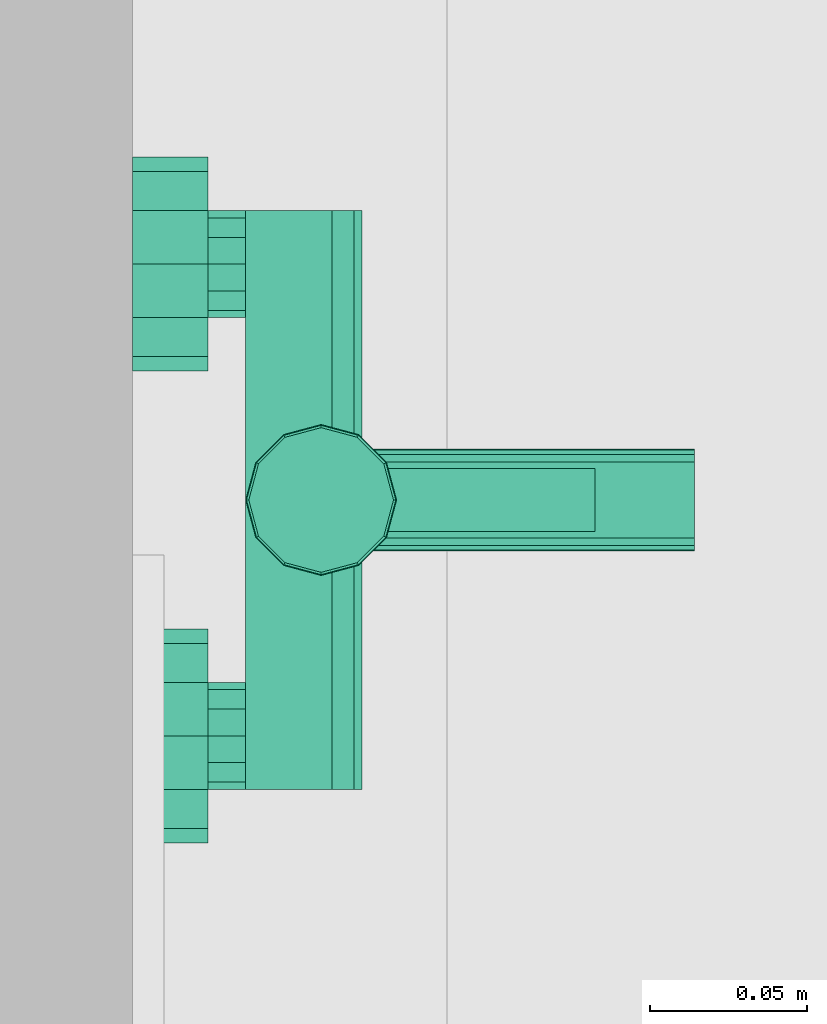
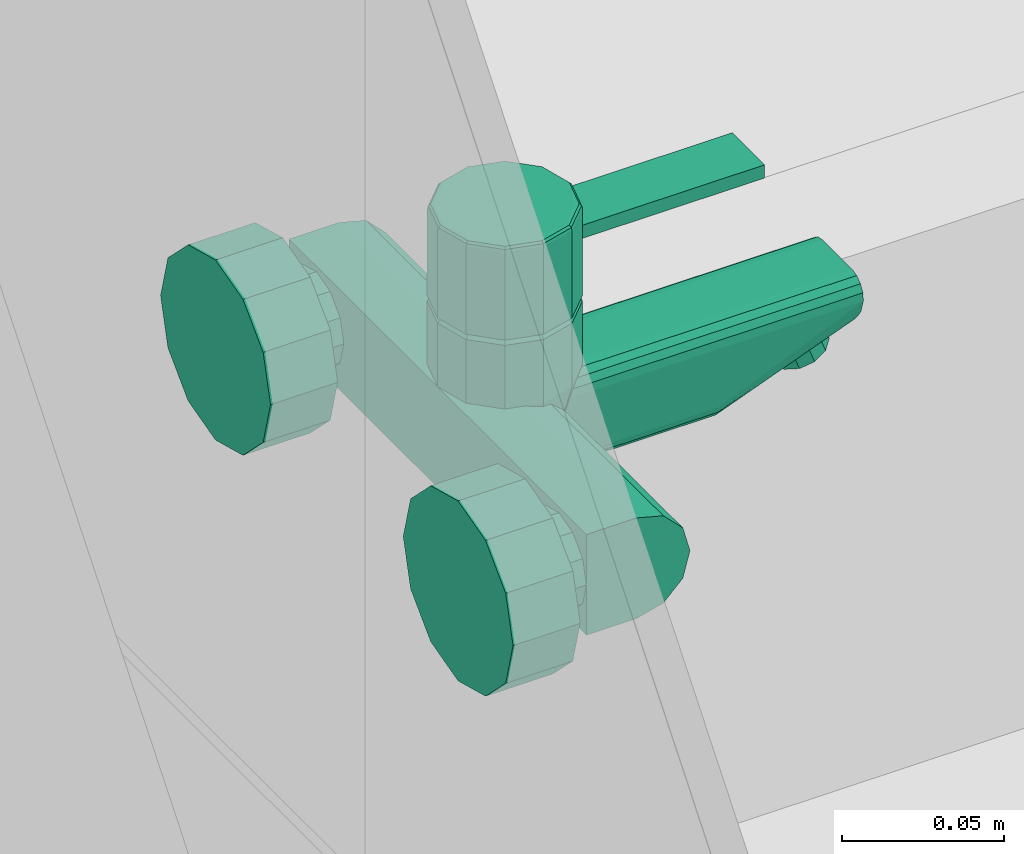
# One storey, part 269 of 301: 1 flow terminal.
"""IFC2X3 building model written with IfcOpenShell, lengths in millimetres."""

from ifc_helpers import new_model, entity, si_unit, converted_unit, derived_unit, money_unit, direction, frame, origin_with_axes, place, context, subcontext, project, spatial, faceted_brep, type_object, element, save


model = new_model("IFC2X3")

# Units and contexts
model_context = context("Model", 3, precision=0.01, world=origin_with_axes(), true_north=direction((0.0, 1.0)))
body_context = subcontext(model_context, "Body", "Model", "MODEL_VIEW")
ifc_project = project(units=[si_unit("LENGTHUNIT", "METRE", prefix="MILLI"), si_unit("AREAUNIT", "SQUARE_METRE"), si_unit("VOLUMEUNIT", "CUBIC_METRE"), converted_unit("PLANEANGLEUNIT", "DEGREE", entity("IfcPlaneAngleMeasure", 0.0174532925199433), si_unit("PLANEANGLEUNIT", "RADIAN"), dimensions=[0, 0, 0, 0, 0, 0, 0]), money_unit("EUR"), converted_unit("TIMEUNIT", "Year", entity("IfcTimeMeasure", 31557600.0), si_unit("TIMEUNIT", "SECOND"), dimensions=[0, 0, 1, 0, 0, 0, 0]), si_unit("MASSUNIT", "GRAM", prefix="KILO"), si_unit("THERMODYNAMICTEMPERATUREUNIT", "DEGREE_CELSIUS"), si_unit("LUMINOUSINTENSITYUNIT", "LUMEN"), si_unit("ENERGYUNIT", "JOULE", prefix="MEGA"), derived_unit("THERMALCONDUCTANCEUNIT", [(si_unit("POWERUNIT", "WATT"), 1), (si_unit("LENGTHUNIT", "METRE"), -1), (si_unit("THERMODYNAMICTEMPERATUREUNIT", "KELVIN"), -1)]), derived_unit("SPECIFICHEATCAPACITYUNIT", [(si_unit("ENERGYUNIT", "JOULE"), 1), (si_unit("MASSUNIT", "GRAM", prefix="KILO"), -1), (si_unit("THERMODYNAMICTEMPERATUREUNIT", "KELVIN"), -1)]), derived_unit("MASSDENSITYUNIT", [(si_unit("MASSUNIT", "GRAM", prefix="KILO"), 1), (si_unit("VOLUMEUNIT", "CUBIC_METRE"), -1)])], contexts=[model_context])

# Site, building, storey
site_placement = place(None, frame((0.0, 0.0, 8650.0), z_axis=(0.0, 0.0, 1.0), x_axis=(1.0, 0.0, 0.0)))
site = spatial("IfcSite", under=ifc_project, at=site_placement, Name="43301:001:0844", CompositionType="ELEMENT")
building_placement = place(site_placement, origin_with_axes())
building = spatial("IfcBuilding", under=site, at=building_placement, Name="Kuressaare Ametikooli tuulikute mehaanikute õppekorpus", CompositionType="ELEMENT")
storey_placement = place(building_placement, origin_with_axes())
storey = spatial("IfcBuildingStorey", under=building, at=storey_placement, Name="1.korrus", CompositionType="ELEMENT", Elevation=0.0)

# Flow terminal
sanitary_terminal_type = type_object("IfcSanitaryTerminalType", Name="Wall Mounted Tap 27", PredefinedType="NOTDEFINED")
flow_terminal_placement = place(storey_placement, frame((130614.9464826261, 21866.46984143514, 0.0), z_axis=(0.0, 0.0, 1.0), x_axis=(0.0, 1.0, 0.0)))
element("IfcFlowTerminal", 1, at=flow_terminal_placement, inside=storey, type_object=sanitary_terminal_type, Name="V", context=body_context, shape_type="Brep", body=[
    faceted_brep([(45.55513627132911, 0.0, 1033.0), (41.00000000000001, 0.0, 1050.0), (45.5551362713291, 0.0, 1067.0), (58.0, 0.0, 1079.444863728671), (75.0, 0.0, 1084.0), (92.0, 0.0, 1079.444863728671), (104.4448637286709, 0.0, 1067.0), (109.0, 0.0, 1050.0), (104.4448637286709, 0.0, 1033.0), (92.00000000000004, 0.0, 1020.555136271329), (75.00000000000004, 0.0, 1016.0), (58.00000000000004, 0.0, 1020.555136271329), (45.55513627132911, -24.0, 1033.0), (41.00000000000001, -24.0, 1050.0), (45.5551362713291, -24.0, 1067.0), (58.0, -24.0, 1079.444863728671), (75.0, -24.0, 1084.0), (92.0, -24.0, 1079.444863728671), (104.4448637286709, -24.0, 1067.0), (109.0, -24.0, 1050.0), (104.4448637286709, -24.0, 1033.0), (92.00000000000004, -24.0, 1020.555136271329), (75.00000000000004, -24.0, 1016.0), (58.00000000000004, -24.0, 1020.555136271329)], [[[0, 1, 2, 3, 4, 5, 6, 7, 8, 9, 10, 11]], [[0, 12, 13, 1]], [[1, 13, 14, 2]], [[2, 14, 15, 3]], [[3, 15, 16, 4]], [[4, 16, 17, 5]], [[5, 17, 18, 6]], [[6, 18, 19, 7]], [[7, 19, 20, 8]], [[8, 20, 21, 9]], [[9, 21, 22, 10]], [[10, 22, 23, 11]], [[11, 23, 12, 0]], [[12, 23, 22, 21, 20, 19, 18, 17, 16, 15, 14, 13]]]),
    faceted_brep([(60.27756813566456, -24.0, 1041.5), (58.00000000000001, -24.0, 1050.0), (60.27756813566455, -24.0, 1058.5), (66.5, -24.0, 1064.722431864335), (75.00000000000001, -24.0, 1067.0), (83.5, -24.0, 1064.722431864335), (89.72243186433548, -24.0, 1058.5), (92.00000000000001, -24.0, 1050.0), (89.72243186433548, -24.0, 1041.5), (83.50000000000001, -24.0, 1035.277568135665), (75.00000000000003, -24.0, 1033.0), (66.50000000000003, -24.0, 1035.277568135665), (60.27756813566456, -36.00000000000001, 1041.5), (58.00000000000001, -36.00000000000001, 1050.0), (60.27756813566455, -36.00000000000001, 1058.5), (66.5, -36.0, 1064.722431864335), (75.00000000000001, -36.0, 1067.0), (83.5, -36.0, 1064.722431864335), (89.72243186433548, -36.00000000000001, 1058.5), (92.00000000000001, -36.00000000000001, 1050.0), (89.72243186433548, -36.00000000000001, 1041.5), (83.50000000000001, -36.00000000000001, 1035.277568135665), (75.00000000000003, -36.00000000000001, 1033.0), (66.50000000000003, -36.00000000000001, 1035.277568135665)], [[[0, 1, 2, 3, 4, 5, 6, 7, 8, 9, 10, 11]], [[0, 12, 13, 1]], [[1, 13, 14, 2]], [[2, 14, 15, 3]], [[3, 15, 16, 4]], [[4, 16, 17, 5]], [[5, 17, 18, 6]], [[6, 18, 19, 7]], [[7, 19, 20, 8]], [[8, 20, 21, 9]], [[9, 21, 22, 10]], [[10, 22, 23, 11]], [[11, 23, 12, 0]], [[12, 23, 22, 21, 20, 19, 18, 17, 16, 15, 14, 13]]]),
    faceted_brep([(-45.55513627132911, 0.0, 1033.0), (-58.00000000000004, 0.0, 1020.555136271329), (-75.00000000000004, 0.0, 1016.0), (-92.00000000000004, 0.0, 1020.555136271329), (-104.4448637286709, 0.0, 1033.0), (-109.0, 0.0, 1050.0), (-104.4448637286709, 0.0, 1067.0), (-92.0, 0.0, 1079.444863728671), (-75.0, 0.0, 1084.0), (-58.0, 0.0, 1079.444863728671), (-45.5551362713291, 0.0, 1067.0), (-41.00000000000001, 0.0, 1050.0), (-45.55513627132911, -24.0, 1033.0), (-58.00000000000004, -24.0, 1020.555136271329), (-75.00000000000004, -24.0, 1016.0), (-92.00000000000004, -24.0, 1020.555136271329), (-104.4448637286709, -24.0, 1033.0), (-109.0, -24.0, 1050.0), (-104.4448637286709, -24.0, 1067.0), (-92.0, -24.0, 1079.444863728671), (-75.0, -24.0, 1084.0), (-58.0, -24.0, 1079.444863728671), (-45.5551362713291, -24.0, 1067.0), (-41.00000000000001, -24.0, 1050.0)], [[[0, 1, 2, 3, 4, 5, 6, 7, 8, 9, 10, 11]], [[1, 0, 12, 13]], [[2, 1, 13, 14]], [[3, 2, 14, 15]], [[4, 3, 15, 16]], [[5, 4, 16, 17]], [[6, 5, 17, 18]], [[7, 6, 18, 19]], [[8, 7, 19, 20]], [[9, 8, 20, 21]], [[10, 9, 21, 22]], [[11, 10, 22, 23]], [[0, 11, 23, 12]], [[12, 23, 22, 21, 20, 19, 18, 17, 16, 15, 14, 13]]]),
    faceted_brep([(-60.27756813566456, -24.0, 1041.5), (-66.50000000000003, -24.0, 1035.277568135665), (-75.00000000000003, -24.0, 1033.0), (-83.50000000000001, -24.0, 1035.277568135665), (-89.72243186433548, -24.0, 1041.5), (-92.00000000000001, -24.0, 1050.0), (-89.72243186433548, -24.0, 1058.5), (-83.5, -24.0, 1064.722431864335), (-75.00000000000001, -24.0, 1067.0), (-66.5, -24.0, 1064.722431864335), (-60.27756813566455, -24.0, 1058.5), (-58.00000000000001, -24.0, 1050.0), (-60.27756813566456, -36.00000000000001, 1041.5), (-66.50000000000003, -36.00000000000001, 1035.277568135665), (-75.00000000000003, -36.00000000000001, 1033.0), (-83.50000000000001, -36.00000000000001, 1035.277568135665), (-89.72243186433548, -36.00000000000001, 1041.5), (-92.00000000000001, -36.00000000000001, 1050.0), (-89.72243186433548, -36.00000000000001, 1058.5), (-83.5, -36.0, 1064.722431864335), (-75.00000000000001, -36.0, 1067.0), (-66.5, -36.0, 1064.722431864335), (-60.27756813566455, -36.00000000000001, 1058.5), (-58.00000000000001, -36.00000000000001, 1050.0)], [[[0, 1, 2, 3, 4, 5, 6, 7, 8, 9, 10, 11]], [[1, 0, 12, 13]], [[2, 1, 13, 14]], [[3, 2, 14, 15]], [[4, 3, 15, 16]], [[5, 4, 16, 17]], [[6, 5, 17, 18]], [[7, 6, 18, 19]], [[8, 7, 19, 20]], [[9, 8, 20, 21]], [[10, 9, 21, 22]], [[11, 10, 22, 23]], [[0, 11, 23, 12]], [[12, 23, 22, 21, 20, 19, 18, 17, 16, 15, 14, 13]]]),
    faceted_brep([(-22.39230484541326, -54.0, 1069.0), (-92.0, -54.0, 1069.0), (-92.0, -63.5, 1066.454482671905), (-22.3801085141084, -63.5, 1066.454482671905), (-23.56921938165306, -59.99999999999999, 1067.392304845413), (-20.78460969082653, -47.99999999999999, 1069.0), (-12.0, -39.21539030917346, 1069.0), (0.0, -36.00000000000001, 1069.0), (-92.0, -36.00000000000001, 1069.0), (-92.0, -36.00000000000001, 1031.0), (-92.0, -54.00000000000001, 1031.0), (-92.0, -63.5, 1033.545517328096), (-92.0, -70.45448267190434, 1040.5), (-92.0, -73.00000000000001, 1050.0), (-92.0, -70.45448267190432, 1059.5), (-18.65321248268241, -70.45448267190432, 1059.5), (-18.42264973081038, -70.63632178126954, 1058.821367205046), (-20.78460969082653, -72.0, 1069.0), (-24.0, -59.99999999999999, 1069.0), (-20.78460969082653, -47.99999999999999, 1093.0), (-12.0, -39.21539030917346, 1093.0), (0.0, -36.00000000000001, 1093.0), (92.0, -36.00000000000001, 1069.0), (92.0, -36.00000000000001, 1031.0), (-24.0, -59.99999999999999, 1093.0), (6.698167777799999, -54.00000000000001, 1031.0), (6.698167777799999, -128.7, 1031.0), (-6.698167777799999, -128.7, 1031.0), (-6.698167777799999, -54.00000000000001, 1031.0), (92.0, -54.00000000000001, 1031.0), (-9.206486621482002, -55.73480068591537, 1031.46483844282), (-11.38167317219, -60.70880215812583, 1032.79761812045), (-11.95567316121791, -63.5, 1033.545517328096), (-12.93483876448, -64.77581392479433, 1034.82133125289), (-13.65970594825, -67.22168918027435, 1037.26720650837), (-14.00000000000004, -70.45448267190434, 1040.5), (-14.99999999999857, -73.00000000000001, 1050.0), (-15.6314139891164, -71.39272474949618, 1055.998432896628), (-17.26794919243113, -71.12435565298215, 1057.0), (-15.73684210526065, -72.65546274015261, 1057.0), (-16.18602173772, -73.76818909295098, 1061.26720650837), (-15.88213414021, -75.13176694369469, 1064.16233412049), (-14.42686544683, -77.50984837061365, 1066.68350539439), (-12.07189135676, -80.49116546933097, 1068.39470631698), (-11.92314238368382, -80.65148839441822, 1068.426326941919), (-12.00000000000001, -80.78460969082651, 1069.0), (-20.78460969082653, -72.0, 1093.0), (-19.05255888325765, -48.99999999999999, 1095.0), (-11.0, -40.94744111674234, 1095.0), (0.0, -38.00000000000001, 1095.0), (12.00000000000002, -39.21539030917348, 1093.0), (12.00000000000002, -39.21539030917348, 1069.0), (20.78460969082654, -48.00000000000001, 1069.0), (22.39230484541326, -54.0, 1069.0), (92.0, -54.0, 1069.0), (92.0, -63.5, 1066.454482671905), (92.0, -70.45448267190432, 1059.5), (92.0, -73.00000000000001, 1050.0), (92.0, -70.45448267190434, 1040.5), (92.0, -63.5, 1033.545517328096), (-22.0, -59.99999999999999, 1095.0), (9.206486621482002, -55.73480068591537, 1031.46483844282), (9.206486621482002, -128.7, 1031.46483844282), (6.698167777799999, -156.6122297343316, 1041.606647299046), (4.999999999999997, -155.02481037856, 1041.003427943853), (0.0, -153.7724378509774, 1040.527526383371), (-5.000000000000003, -155.02481037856, 1041.003427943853), (-6.698167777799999, -156.6122297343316, 1041.606647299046), (-9.206486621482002, -128.7, 1031.46483844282), (11.38167317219, -60.70880215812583, 1032.79761812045), (11.95567316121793, -63.5, 1033.545517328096), (-11.38167317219, -128.7, 1032.79761812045), (-12.93483876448, -128.7, 1034.82133125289), (-13.65970594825, -128.7, 1037.26720650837), (-16.18602173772, -178.7, 1061.26720650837), (-15.88213414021, -178.7, 1064.16233412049), (-14.42686544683, -178.7, 1066.68350539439), (-12.07189135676, -178.7, 1068.39470631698), (-9.224483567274, -178.7, 1069.0), (-9.224483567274, -81.52830707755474, 1069.0), (-12.00000000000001, -80.78460969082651, 1093.0), (-19.05255888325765, -71.0, 1095.0), (20.78460969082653, -47.99999999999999, 1095.0), (24.0, -59.99999999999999, 1095.0), (20.78460969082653, -72.0, 1095.0), (12.00000000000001, -80.78460969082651, 1095.0), (0.0, -83.99999999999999, 1095.0), (-11.99999999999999, -80.78460969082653, 1095.0), (-20.78460969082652, -72.00000000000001, 1095.0), (-24.0, -60.00000000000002, 1095.0), (-20.78460969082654, -48.00000000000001, 1095.0), (-12.00000000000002, -39.21539030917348, 1095.0), (0.0, -36.00000000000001, 1095.0), (12.0, -39.21539030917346, 1095.0), (-11.00000000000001, -79.05255888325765, 1095.0), (0.0, -81.99999999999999, 1095.0), (10.99999999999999, -79.05255888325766, 1095.0), (19.05255888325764, -71.00000000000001, 1095.0), (22.0, -60.00000000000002, 1095.0), (19.05255888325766, -49.00000000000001, 1095.0), (11.00000000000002, -40.94744111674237, 1095.0), (20.78460969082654, -48.00000000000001, 1093.0), (24.0, -60.00000000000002, 1093.0), (24.0, -60.00000000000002, 1069.0), (23.56921938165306, -60.00000000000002, 1067.392304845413), (22.38010851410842, -63.5, 1066.454482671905), (18.65321248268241, -70.45448267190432, 1059.5), (18.42264973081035, -70.63632178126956, 1058.821367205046), (17.26794919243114, -71.12435565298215, 1057.0), (15.63141398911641, -71.39272474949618, 1055.998432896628), (14.99999999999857, -73.00000000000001, 1050.0), (14.00000000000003, -70.45448267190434, 1040.5), (13.65970594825, -67.22168918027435, 1037.26720650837), (12.93483876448, -64.77581392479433, 1034.82133125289), (11.38167317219, -128.7, 1032.79761812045), (9.206486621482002, -160.1976250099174, 1043.433935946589), (8.660254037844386, -158.3256179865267, 1042.621346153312), (8.660254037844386, -160.222444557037, 1037.629697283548), (4.999999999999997, -156.8008991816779, 1036.329510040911), (0.0, -155.5485266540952, 1035.85360848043), (-5.000000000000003, -156.8008991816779, 1036.329510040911), (-8.660254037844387, -160.222444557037, 1037.629697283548), (-8.660254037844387, -158.3256179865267, 1042.621346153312), (-9.206486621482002, -160.1976250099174, 1043.433935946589), (12.93483876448, -128.7, 1034.82133125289), (-10.0, -162.8044792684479, 1044.910741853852), (-9.206486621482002, -165.7342214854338, 1045.537842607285), (-9.206486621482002, -178.7, 1050.46483844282), (-11.38167317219, -178.7, 1051.79761812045), (-12.93483876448, -178.7, 1053.82133125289), (-14.65970594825, -178.7, 1056.26720650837), (15.88213414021, -178.7, 1064.16233412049), (14.42686544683, -178.7, 1066.68350539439), (12.07189135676, -178.7, 1068.39470631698), (9.224483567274, -178.7, 1069.0), (-6.698167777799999, -178.7, 1050.0), (6.698167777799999, -178.7, 1050.0), (9.206486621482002, -178.7, 1050.46483844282), (11.38167317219, -178.7, 1051.79761812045), (12.93483876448, -178.7, 1053.82133125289), (14.65970594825, -178.7, 1056.26720650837), (16.18602173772, -178.7, 1061.26720650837), (9.224483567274, -81.52830707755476, 1069.0), (0.0, -83.99999999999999, 1069.0), (0.0, -83.99999999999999, 1093.0), (20.78460969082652, -47.99999999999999, 1128.0), (24.0, -59.99999999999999, 1128.0), (20.78460969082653, -72.0, 1128.0), (12.00000000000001, -80.78460969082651, 1128.0), (10.0, -81.32050807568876, 1115.0), (0.0, -83.99999999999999, 1115.0), (0.0, -83.99999999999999, 1128.0), (0.0, -83.99999999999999, 1120.0), (10.0, -81.32050807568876, 1120.0), (-11.99999999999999, -80.78460969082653, 1128.0), (-10.0, -81.32050807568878, 1115.0), (-10.0, -81.32050807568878, 1120.0), (-20.78460969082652, -72.00000000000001, 1128.0), (-24.0, -60.00000000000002, 1128.0), (-20.78460969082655, -48.00000000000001, 1128.0), (-12.00000000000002, -39.21539030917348, 1128.0), (0.0, -36.00000000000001, 1128.0), (12.0, -39.21539030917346, 1128.0), (11.99999999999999, -80.78460969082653, 1093.0), (20.78460969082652, -72.00000000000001, 1093.0), (20.78460969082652, -72.00000000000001, 1069.0), (11.99999999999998, -80.78460969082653, 1069.0), (11.92314238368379, -80.65148839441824, 1068.426326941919), (12.07189135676, -80.49116546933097, 1068.39470631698), (14.42686544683, -77.50984837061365, 1066.68350539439), (15.88213414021, -75.1317669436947, 1064.16233412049), (16.18602173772, -73.76818909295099, 1061.26720650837), (15.73684210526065, -72.65546274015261, 1057.0), (16.18602173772, -128.7, 1061.26720650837), (13.65970594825, -128.7, 1037.26720650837), (9.206486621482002, -165.7342214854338, 1045.537842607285), (10.0, -162.8044792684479, 1044.910741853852), (10.0, -164.8963624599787, 1039.405786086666), (8.66025403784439, -169.5702803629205, 1041.181874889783), (5.000000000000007, -172.9918257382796, 1042.48206213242), (0.0, -174.2441982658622, 1042.957963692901), (-4.999999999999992, -172.9918257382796, 1042.48206213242), (-8.660254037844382, -169.5702803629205, 1041.181874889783), (-10.0, -164.8963624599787, 1039.405786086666), (-8.660254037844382, -167.6734537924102, 1046.173523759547), (-6.698167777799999, -169.6283175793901, 1046.552760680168), (0.0, -172.4681094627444, 1047.631881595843), (5.000000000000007, -171.2157369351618, 1047.155980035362), (6.698167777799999, -169.6283175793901, 1046.552760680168), (-4.999999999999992, -171.2157369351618, 1047.155980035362), (8.66025403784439, -167.6734537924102, 1046.173523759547), (20.55255888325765, -48.13397459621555, 1129.0), (23.73205080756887, -59.99999999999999, 1129.0), (20.55255888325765, -71.86602540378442, 1129.0), (11.86602540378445, -80.55255888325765, 1129.0), (10.0, -147.0, 1115.0), (-10.0, -147.0, 1115.0), (0.0, -83.73205080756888, 1129.0), (-10.0, -147.0, 1120.0), (10.0, -147.0, 1120.0), (-11.86602540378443, -80.55255888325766, 1129.0), (-20.55255888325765, -71.86602540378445, 1129.0), (-23.73205080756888, -60.00000000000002, 1129.0), (-20.55255888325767, -48.13397459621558, 1129.0), (-11.86602540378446, -39.44744111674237, 1129.0), (0.0, -36.26794919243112, 1129.0), (11.86602540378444, -39.44744111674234, 1129.0), (19.91858428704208, -48.49999999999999, 1129.732050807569), (23.0, -59.99999999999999, 1129.732050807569), (19.91858428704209, -71.5, 1129.732050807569), (11.50000000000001, -79.91858428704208, 1129.732050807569), (0.0, -82.99999999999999, 1129.732050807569), (-11.49999999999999, -79.9185842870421, 1129.732050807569), (-19.91858428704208, -71.50000000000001, 1129.732050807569), (-23.0, -60.00000000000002, 1129.732050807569), (-19.9185842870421, -48.50000000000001, 1129.732050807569), (-11.50000000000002, -40.08141571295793, 1129.732050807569), (0.0, -37.00000000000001, 1129.732050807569), (11.5, -40.08141571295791, 1129.732050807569), (19.05255888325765, -48.99999999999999, 1130.0), (22.0, -59.99999999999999, 1130.0), (19.05255888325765, -71.0, 1130.0), (11.00000000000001, -79.05255888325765, 1130.0), (0.0, -81.99999999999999, 1130.0), (-10.99999999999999, -79.05255888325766, 1130.0), (-19.05255888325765, -71.00000000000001, 1130.0), (-22.0, -60.00000000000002, 1130.0), (-19.05255888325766, -49.00000000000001, 1130.0), (-11.00000000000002, -40.94744111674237, 1130.0), (0.0, -38.00000000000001, 1130.0), (11.0, -40.94744111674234, 1130.0), (0.0, -60.0, 1130.0)], [[[0, 1, 2, 3, 4]], [[5, 6, 7, 8, 1, 0]], [[9, 10, 11, 12, 13, 14, 2, 1, 8]], [[3, 2, 14, 15]], [[3, 15, 16, 17, 18, 4]], [[4, 18, 0]], [[5, 19, 20, 6]], [[6, 20, 21, 7]], [[9, 8, 7, 22, 23]], [[0, 18, 24, 19, 5]], [[25, 26, 27, 28, 10, 9, 23, 29]], [[30, 31, 32, 11, 10, 28]], [[33, 34, 35, 12, 11, 32]], [[36, 13, 12, 35]], [[37, 38, 16, 15, 14, 13, 36]], [[38, 39, 40, 41, 42, 43, 44, 45, 17, 16]], [[24, 18, 17, 46]], [[20, 19, 47, 48]], [[21, 20, 48, 49]], [[7, 21, 50, 51]], [[51, 52, 53, 54, 22, 7]], [[54, 55, 56, 57, 58, 59, 29, 23, 22]], [[19, 24, 60, 47]], [[61, 62, 26, 25]], [[63, 64, 65, 66, 67, 27, 26]], [[28, 27, 68, 30]], [[69, 61, 25, 29, 59, 70]], [[30, 68, 71, 31]], [[32, 31, 71, 72, 33]], [[33, 72, 73, 34]], [[36, 35, 34, 73, 74, 40, 39, 37]], [[37, 39, 38]], [[74, 75, 41, 40]], [[76, 42, 41, 75]], [[77, 43, 42, 76]], [[78, 79, 44, 43, 77]], [[45, 44, 79]], [[46, 17, 45, 80]], [[24, 46, 81, 60]], [[82, 83, 84, 85, 86, 87, 88, 89, 90, 91, 92, 93], [94, 95, 96, 97, 98, 99, 100, 49, 48, 47, 60, 81]], [[50, 21, 49, 100]], [[51, 50, 101, 52]], [[52, 101, 102, 103, 53]], [[104, 105, 55, 54, 53]], [[106, 56, 55, 105]], [[107, 108, 109, 110, 57, 56, 106]], [[111, 58, 57, 110]], [[112, 113, 70, 59, 58, 111]], [[69, 114, 62, 61]], [[115, 116, 63, 26, 62]], [[116, 117, 118, 64, 63]], [[118, 119, 65, 64]], [[119, 120, 66, 65]], [[66, 120, 121, 122, 67]], [[67, 122, 123, 68, 27]], [[70, 113, 124, 114, 69]], [[123, 125, 126, 127, 128, 71, 68]], [[128, 129, 72, 71]], [[130, 73, 72]], [[74, 73, 130]], [[131, 132, 133, 134, 78, 77, 76, 75, 74, 130, 129, 128, 127, 135, 136, 137, 138, 139, 140, 141]], [[134, 142, 143, 79, 78]], [[144, 80, 45, 79, 143]], [[46, 80, 94, 81]], [[82, 145, 146, 83]], [[83, 146, 147, 84]], [[84, 147, 148, 85]], [[149, 150, 86, 85, 148, 151, 152, 153]], [[151, 154, 87, 86, 150, 155, 156, 152]], [[87, 154, 157, 88]], [[88, 157, 158, 89]], [[89, 158, 159, 90]], [[90, 159, 160, 91]], [[91, 160, 161, 92]], [[92, 161, 162, 93]], [[93, 162, 145, 82]], [[80, 144, 95, 94]], [[144, 163, 96, 95]], [[163, 164, 97, 96]], [[164, 102, 98, 97]], [[102, 101, 99, 98]], [[101, 50, 100, 99]], [[164, 165, 103, 102]], [[53, 103, 104]], [[106, 105, 104, 103, 165, 107]], [[107, 165, 166, 167, 168, 169, 170, 171, 172, 108]], [[108, 172, 109]], [[111, 110, 109, 172, 171, 173, 174, 112]], [[112, 174, 124, 113]], [[138, 137, 175, 176, 115, 62, 114]], [[176, 177, 117, 116, 115]], [[121, 120, 119, 118, 117, 177, 178, 179, 180, 181, 182, 183]], [[122, 121, 183, 125, 123]], [[139, 138, 114, 124]], [[125, 183, 182, 184, 126]], [[185, 135, 127, 126, 184]], [[130, 72, 129]], [[131, 170, 169, 132]], [[132, 169, 168, 133]], [[133, 168, 167, 142, 134]], [[186, 187, 188, 136, 135, 185, 189]], [[175, 137, 136, 188, 190]], [[139, 174, 140]], [[140, 173, 141]], [[141, 173, 171, 170, 131]], [[166, 163, 144, 143, 142]], [[145, 191, 192, 146]], [[146, 192, 193, 147]], [[147, 193, 194, 148]], [[149, 195, 196, 155, 150]], [[148, 194, 197, 151]], [[198, 199, 153, 152, 156]], [[199, 195, 149, 153]], [[151, 197, 200, 154]], [[196, 198, 156, 155]], [[154, 200, 201, 157]], [[157, 201, 202, 158]], [[158, 202, 203, 159]], [[159, 203, 204, 160]], [[160, 204, 205, 161]], [[161, 205, 206, 162]], [[162, 206, 191, 145]], [[163, 166, 165, 164]], [[166, 142, 167]], [[140, 174, 173]], [[139, 124, 174]], [[190, 178, 177, 176, 175]], [[187, 179, 178, 190, 188]], [[180, 179, 187, 186]], [[181, 180, 186, 189]], [[184, 182, 181, 189, 185]], [[191, 207, 208, 192]], [[192, 208, 209, 193]], [[193, 209, 210, 194]], [[198, 196, 195, 199]], [[194, 210, 211, 197]], [[197, 211, 212, 200]], [[200, 212, 213, 201]], [[201, 213, 214, 202]], [[202, 214, 215, 203]], [[203, 215, 216, 204]], [[204, 216, 217, 205]], [[205, 217, 218, 206]], [[206, 218, 207, 191]], [[207, 219, 220, 208]], [[208, 220, 221, 209]], [[209, 221, 222, 210]], [[210, 222, 223, 211]], [[211, 223, 224, 212]], [[212, 224, 225, 213]], [[213, 225, 226, 214]], [[214, 226, 227, 215]], [[215, 227, 228, 216]], [[216, 228, 229, 217]], [[217, 229, 230, 218]], [[218, 230, 219, 207]], [[219, 231, 220]], [[220, 231, 221]], [[221, 231, 222]], [[222, 231, 223]], [[223, 231, 224]], [[224, 231, 225]], [[225, 231, 226]], [[226, 231, 227]], [[227, 231, 228]], [[228, 231, 229]], [[229, 231, 230]], [[230, 231, 219]]]),
])

save(model, "model.ifc")
